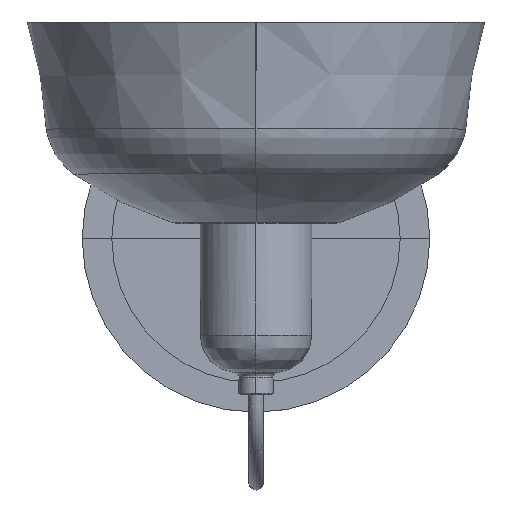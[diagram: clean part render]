
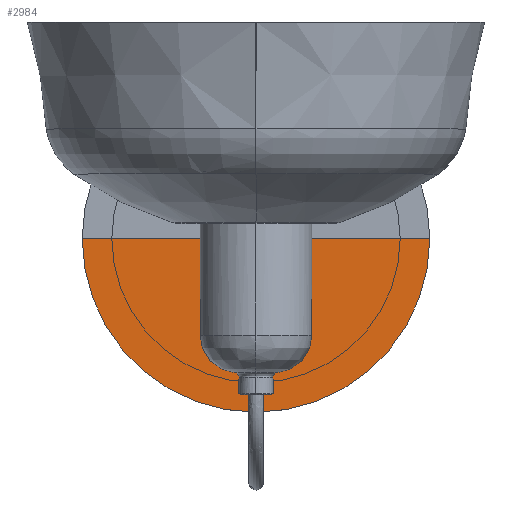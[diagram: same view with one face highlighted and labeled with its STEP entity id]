
A CAD part, top view. The second image highlights one B-rep face of the part: STEP entity #2984.
In plain terms, the highlighted planar face has unit normal (0, 0, 1).
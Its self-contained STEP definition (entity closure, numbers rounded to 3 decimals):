
#114=PLANE('',#4003);
#451=FACE_OUTER_BOUND('',#685,.T.);
#685=EDGE_LOOP('',(#2423,#2424));
#1068=VERTEX_POINT('',#10360);
#1069=VERTEX_POINT('',#10362);
#1535=EDGE_CURVE('',#1068,#1069,#3168,.T.);
#1544=EDGE_CURVE('',#1069,#1068,#3404,.T.);
#2423=ORIENTED_EDGE('',*,*,#1535,.T.);
#2424=ORIENTED_EDGE('',*,*,#1544,.T.);
#2984=ADVANCED_FACE('',(#451),#114,.F.);
#3168=CIRCLE('',#3997,70.);
#3404=LINE('',#10385,#3649);
#3649=VECTOR('',#4780,304.8);
#3997=AXIS2_PLACEMENT_3D('',#10367,#4760,#4761);
#4003=AXIS2_PLACEMENT_3D('',#10386,#4781,#4782);
#4760=DIRECTION('center_axis',(0.,0.,
1.));
#4761=DIRECTION('ref_axis',(1.,0.,0.));
#4780=DIRECTION('',(-1.,0.,0.));
#4781=DIRECTION('center_axis',(0.,0.,
-1.));
#4782=DIRECTION('ref_axis',(1.,0.,0.));
#10360=CARTESIAN_POINT('',(-70.,0.,20.6));
#10362=CARTESIAN_POINT('',(70.,0.,20.6));
#10367=CARTESIAN_POINT('Origin',(0.,0.,
20.6));
#10385=CARTESIAN_POINT('',(70.,0.,20.6));
#10386=CARTESIAN_POINT('Origin',(0.,0.,
20.6));
